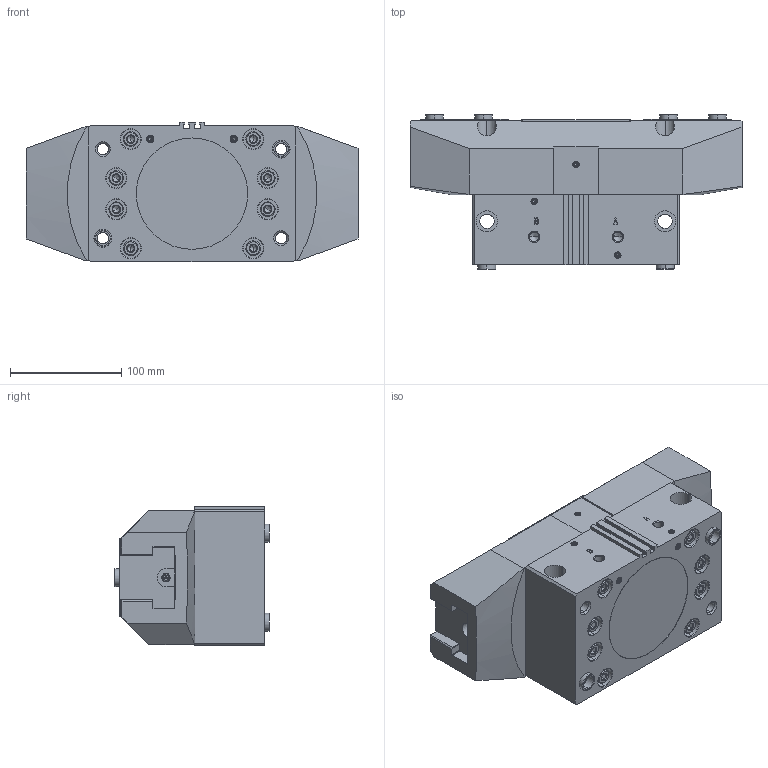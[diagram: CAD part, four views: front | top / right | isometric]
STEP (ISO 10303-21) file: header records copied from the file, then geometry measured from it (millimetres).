
FILE_DESCRIPTION (( 'STEP AP214' ), '1' );
FILE_NAME ('HP-NTS230H-M-Assy-61G292924-20241126-HCL.STEP', '2024-11-26T06:09:47', ( '' ), ( '' ), 'SwSTEP 2.0', 'SolidWorks 2022', '' );
FILE_SCHEMA (( 'AUTOMOTIVE_DESIGN' ));
Length unit declared in the file: millimetre
Products named in the file (11): MASTER JAW^HP-NTS230H-M; REAR BODY^HP-NTS230H-M; S-SARA^HP-NTS230H-M; COVER^HP-NTS230H-M; S-TOME1^HP-NTS230H-M; S-TOME2^HP-NTS230H-M; HP-NTS230H-M-Assy-61G292924-20241126-HCL; BUSH^HP-NTS230H-M; BODY^HP-NTS230H-M; GREASE NIPPLE^HP-NTS230H-M; BOLT^HP-NTS230H-M
Assembly tree (30 placements, depth 2):
  HP-NTS230H-M-Assy-61G292924-20241126-HCL
    BODY^HP-NTS230H-M
    REAR BODY^HP-NTS230H-M
    MASTER JAW^HP-NTS230H-M  x2
    COVER^HP-NTS230H-M
    BUSH^HP-NTS230H-M  x6
    BOLT^HP-NTS230H-M  x8
    S-TOME1^HP-NTS230H-M  x3
    S-TOME2^HP-NTS230H-M  x2
    S-SARA^HP-NTS230H-M  x4
    GREASE NIPPLE^HP-NTS230H-M  x2
Bounding box: 298 x 138.7 x 125 mm (x, y, z)
Volume: 3381795.5 mm3; surface area: 392063.5 mm2
Topology: 30 solids, 30 shells, 973 faces, 2315 edges, 1425 vertices
Faces by surface type: plane 383, cone 294, cylinder 248, torus 28, bspline 16, sphere 4
Entity records: 18132 total; most frequent: CARTESIAN_POINT 4397, DIRECTION 2694, ORIENTED_EDGE 2574, EDGE_CURVE 1287, AXIS2_PLACEMENT_3D 986, VERTEX_POINT 813, VECTOR 722, LINE 722
